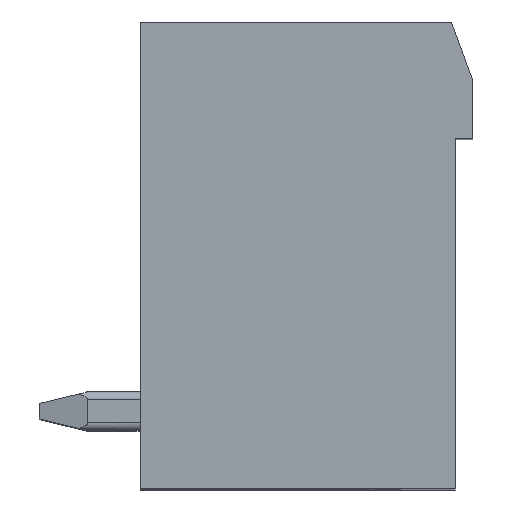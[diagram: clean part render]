
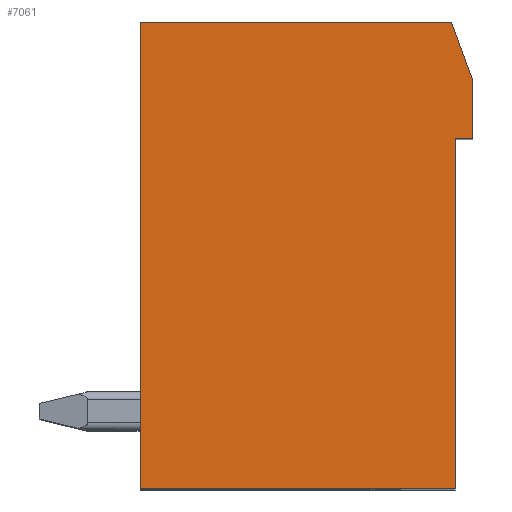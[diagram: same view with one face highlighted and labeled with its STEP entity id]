
A CAD part, top view. The second image highlights one B-rep face of the part: STEP entity #7061.
In plain terms, the highlighted planar face has unit normal (0, 0, 1).
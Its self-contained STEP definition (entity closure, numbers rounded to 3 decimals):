
#181=DIRECTION('',(0.,-1.,0.));
#182=VECTOR('',#181,1.5);
#183=CARTESIAN_POINT('',(11.15,10.5,-2.04));
#184=LINE('',#183,#182);
#197=DIRECTION('',(-1.,0.,0.));
#198=VECTOR('',#197,0.45);
#199=CARTESIAN_POINT('',(11.15,9.,-2.04));
#200=LINE('',#199,#198);
#205=DIRECTION('',(0.,-1.,0.));
#206=VECTOR('',#205,9.);
#207=CARTESIAN_POINT('',(10.7,9.,-2.04));
#208=LINE('',#207,#206);
#217=DIRECTION('',(-1.,0.,0.));
#218=VECTOR('',#217,8.1);
#219=CARTESIAN_POINT('',(10.7,0.,-2.04));
#220=LINE('',#219,#218);
#321=DIRECTION('',(-1.,0.,0.));
#322=VECTOR('',#321,8.);
#323=CARTESIAN_POINT('',(10.6,12.,-2.04));
#324=LINE('',#323,#322);
#325=DIRECTION('',(-0.344,0.939,0.));
#326=VECTOR('',#325,1.598);
#327=CARTESIAN_POINT('',(11.15,10.5,-2.04));
#328=LINE('',#327,#326);
#329=DIRECTION('',(0.,-1.,0.));
#330=VECTOR('',#329,12.);
#331=CARTESIAN_POINT('',(2.6,12.,-2.04));
#332=LINE('',#331,#330);
#5909=CARTESIAN_POINT('',(10.6,12.,-2.04));
#5910=VERTEX_POINT('',#5909);
#5911=CARTESIAN_POINT('',(2.6,12.,-2.04));
#5912=VERTEX_POINT('',#5911);
#5913=CARTESIAN_POINT('',(2.6,0.,-2.04));
#5914=VERTEX_POINT('',#5913);
#5923=CARTESIAN_POINT('',(11.15,10.5,-2.04));
#5924=VERTEX_POINT('',#5923);
#5925=CARTESIAN_POINT('',(11.15,9.,-2.04));
#5926=VERTEX_POINT('',#5925);
#5927=CARTESIAN_POINT('',(10.7,9.,-2.04));
#5928=VERTEX_POINT('',#5927);
#5929=CARTESIAN_POINT('',(10.7,0.,-2.04));
#5930=VERTEX_POINT('',#5929);
#7046=CARTESIAN_POINT('',(6.875,6.,-2.04));
#7047=DIRECTION('',(0.,0.,1.));
#7048=DIRECTION('',(1.,0.,0.));
#7049=AXIS2_PLACEMENT_3D('',#7046,#7047,#7048);
#7050=PLANE('',#7049);
#7051=ORIENTED_EDGE('',*,*,#6531,.F.);
#7053=ORIENTED_EDGE('',*,*,#7052,.F.);
#7054=ORIENTED_EDGE('',*,*,#6747,.T.);
#7055=ORIENTED_EDGE('',*,*,#6774,.T.);
#7056=ORIENTED_EDGE('',*,*,#6789,.T.);
#7057=ORIENTED_EDGE('',*,*,#6808,.T.);
#7058=ORIENTED_EDGE('',*,*,#7016,.F.);
#7059=EDGE_LOOP('',(#7051,#7053,#7054,#7055,#7056,#7057,#7058));
#7060=FACE_OUTER_BOUND('',#7059,.F.);
#7061=ADVANCED_FACE('',(#7060),#7050,.T.);
#6531=EDGE_CURVE('',#5910,#5912,#324,.T.);
#6747=EDGE_CURVE('',#5924,#5926,#184,.T.);
#6774=EDGE_CURVE('',#5926,#5928,#200,.T.);
#6789=EDGE_CURVE('',#5928,#5930,#208,.T.);
#6808=EDGE_CURVE('',#5930,#5914,#220,.T.);
#7016=EDGE_CURVE('',#5912,#5914,#332,.T.);
#7052=EDGE_CURVE('',#5924,#5910,#328,.T.);
